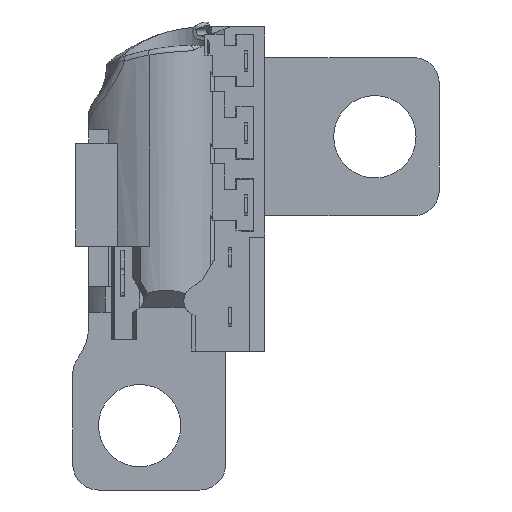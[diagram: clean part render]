
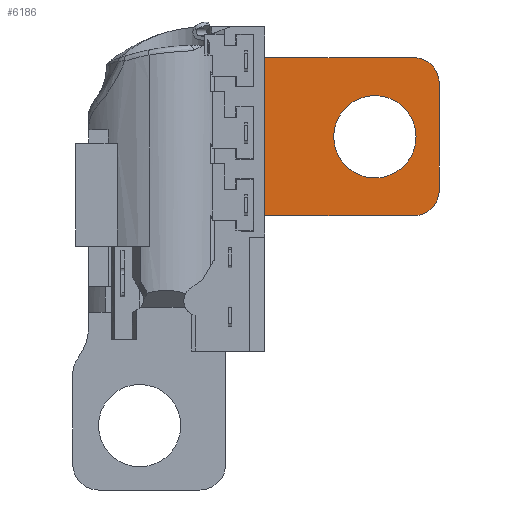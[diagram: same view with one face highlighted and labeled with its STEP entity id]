
A CAD part, front view. The second image highlights one B-rep face of the part: STEP entity #6186.
In plain terms, the highlighted planar face has unit normal (0, -1, 0).
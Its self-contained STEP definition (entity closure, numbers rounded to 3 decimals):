
#120=CARTESIAN_POINT('',(9.625,-1.65,4.));
#121=DIRECTION('',(0.,-1.,0.));
#122=DIRECTION('',(1.,0.,0.));
#123=AXIS2_PLACEMENT_3D('',#120,#121,#122);
#125=CARTESIAN_POINT('',(9.625,-1.65,-0.15));
#126=DIRECTION('',(0.,-1.,0.));
#127=DIRECTION('',(0.,0.,-1.));
#128=AXIS2_PLACEMENT_3D('',#125,#126,#127);
#130=CARTESIAN_POINT('',(8.125,-1.65,1.925));
#131=DIRECTION('',(0.,1.,0.));
#132=DIRECTION('',(0.,0.,1.));
#133=AXIS2_PLACEMENT_3D('',#130,#131,#132);
#135=CARTESIAN_POINT('',(8.125,-1.65,1.925));
#136=DIRECTION('',(0.,1.,0.));
#137=DIRECTION('',(0.,0.,-1.));
#138=AXIS2_PLACEMENT_3D('',#135,#136,#137);
#4326=DIRECTION('',(-1.,0.,0.));
#4327=VECTOR('',#4326,5.785);
#4328=CARTESIAN_POINT('',(9.625,-1.65,-1.15));
#4329=LINE('',#4328,#4327);
#4330=DIRECTION('',(0.,0.,-1.));
#4331=VECTOR('',#4330,6.15);
#4332=CARTESIAN_POINT('',(3.84,-1.65,5.));
#4333=LINE('',#4332,#4331);
#4334=DIRECTION('',(1.,0.,0.));
#4335=VECTOR('',#4334,5.785);
#4336=CARTESIAN_POINT('',(3.84,-1.65,5.));
#4337=LINE('',#4336,#4335);
#4390=DIRECTION('',(0.,0.,-1.));
#4391=VECTOR('',#4390,4.15);
#4392=CARTESIAN_POINT('',(10.625,-1.65,4.));
#4393=LINE('',#4392,#4391);
#5697=CARTESIAN_POINT('',(9.625,-1.65,5.));
#5699=VERTEX_POINT('',#5697);
#5724=CARTESIAN_POINT('',(10.625,-1.65,4.));
#5725=VERTEX_POINT('',#5724);
#5784=CARTESIAN_POINT('',(8.125,-1.65,3.525));
#5785=VERTEX_POINT('',#5784);
#5801=CARTESIAN_POINT('',(10.625,-1.65,-0.15));
#5802=VERTEX_POINT('',#5801);
#5803=CARTESIAN_POINT('',(8.125,-1.65,0.325));
#5804=VERTEX_POINT('',#5803);
#5806=CARTESIAN_POINT('',(9.625,-1.65,-1.15));
#5808=VERTEX_POINT('',#5806);
#5840=CARTESIAN_POINT('',(3.84,-1.65,-1.15));
#5841=VERTEX_POINT('',#5840);
#5842=CARTESIAN_POINT('',(3.84,-1.65,5.));
#5843=VERTEX_POINT('',#5842);
#6161=CARTESIAN_POINT('',(0.,-1.65,0.));
#6162=DIRECTION('',(0.,-1.,0.));
#6163=DIRECTION('',(0.,0.,-1.));
#6164=AXIS2_PLACEMENT_3D('',#6161,#6162,#6163);
#6165=PLANE('',#6164);
#6167=ORIENTED_EDGE('',*,*,#6166,.F.);
#6169=ORIENTED_EDGE('',*,*,#6168,.T.);
#6171=ORIENTED_EDGE('',*,*,#6170,.F.);
#6173=ORIENTED_EDGE('',*,*,#6172,.T.);
#6175=ORIENTED_EDGE('',*,*,#6174,.F.);
#6177=ORIENTED_EDGE('',*,*,#6176,.T.);
#6178=EDGE_LOOP('',(#6167,#6169,#6171,#6173,#6175,#6177));
#6179=FACE_OUTER_BOUND('',#6178,.F.);
#6181=ORIENTED_EDGE('',*,*,#6180,.F.);
#6183=ORIENTED_EDGE('',*,*,#6182,.F.);
#6184=EDGE_LOOP('',(#6181,#6183));
#6185=FACE_BOUND('',#6184,.F.);
#124=CIRCLE('',#123,1.);
#129=CIRCLE('',#128,1.);
#134=CIRCLE('',#133,1.6);
#139=CIRCLE('',#138,1.6);
#6166=EDGE_CURVE('',#5843,#5841,#4333,.T.);
#6168=EDGE_CURVE('',#5843,#5699,#4337,.T.);
#6170=EDGE_CURVE('',#5725,#5699,#124,.T.);
#6172=EDGE_CURVE('',#5725,#5802,#4393,.T.);
#6174=EDGE_CURVE('',#5808,#5802,#129,.T.);
#6176=EDGE_CURVE('',#5808,#5841,#4329,.T.);
#6180=EDGE_CURVE('',#5785,#5804,#134,.T.);
#6182=EDGE_CURVE('',#5804,#5785,#139,.T.);
#6186=ADVANCED_FACE('',(#6179,#6185),#6165,.T.);
